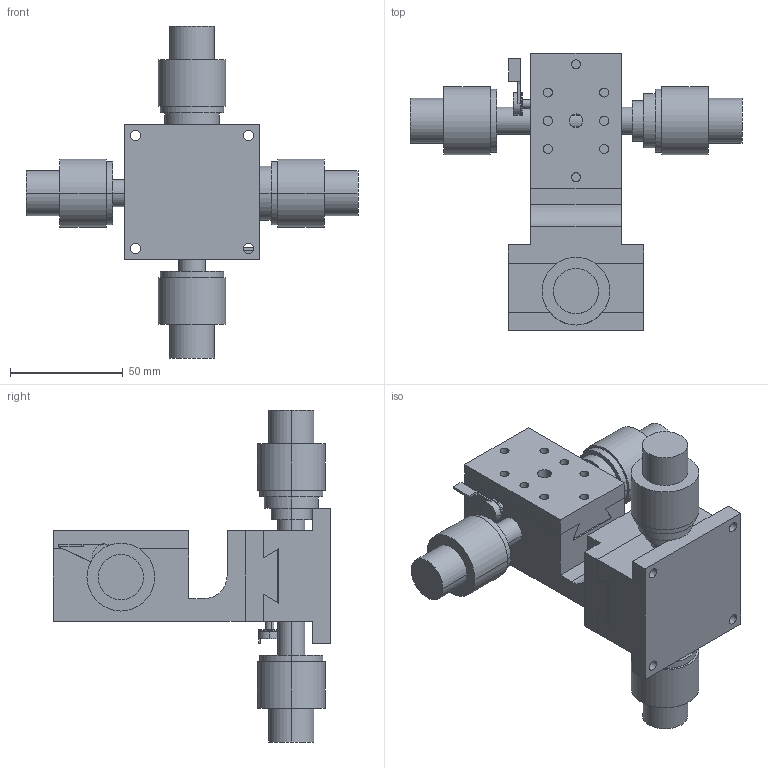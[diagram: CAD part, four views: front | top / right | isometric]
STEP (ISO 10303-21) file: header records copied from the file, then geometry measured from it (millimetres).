
FILE_DESCRIPTION (( 'STEP AP203' ), '1' );
FILE_NAME ('LM-612WS.STEP', '2008-03-04T00:15:26', ( '' ), ( '' ), 'SwSTEP 2.0', 'SolidWorks 2007', '' );
FILE_SCHEMA (( 'CONFIG_CONTROL_DESIGN' ));
Length unit declared in the file: millimetre
Products named in the file (4): LM-612WS; LM-612WS-1; LM-612WS-2; LM-612WS-3
Assembly tree (3 placements, depth 2):
  LM-612WS
    LM-612WS-1
    LM-612WS-2
    LM-612WS-3
Bounding box: 147 x 123 x 147 mm (x, y, z)
Volume: 300855.9 mm3; surface area: 72054.9 mm2
Topology: 3 solids, 5 shells, 264 faces, 619 edges, 410 vertices
Faces by surface type: plane 133, cylinder 131
Entity records: 8127 total; most frequent: DIRECTION 1421, CARTESIAN_POINT 1311, ORIENTED_EDGE 1238, EDGE_CURVE 619, AXIS2_PLACEMENT_3D 536, VERTEX_POINT 410, LINE 349, VECTOR 349
